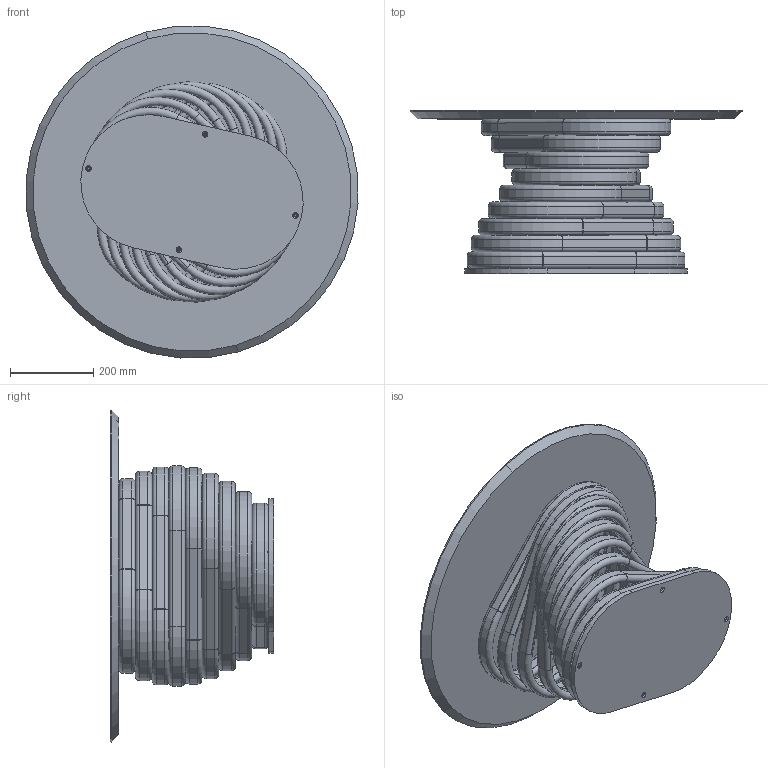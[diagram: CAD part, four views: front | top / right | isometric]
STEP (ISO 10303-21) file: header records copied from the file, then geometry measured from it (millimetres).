
FILE_DESCRIPTION (( 'STEP AP203' ), '1' );
FILE_NAME ('RL12W.STEP', '2024-08-06T12:35:21', ( '' ), ( '' ), 'SwSTEP 2.0', 'SolidWorks 2022', '' );
FILE_SCHEMA (( 'CONFIG_CONTROL_DESIGN' ));
Length unit declared in the file: millimetre
Products named in the file (7): RLBP000000INT-00-ANELLO INTERMEDIO._Default<A macchina>; RLB1000000-00-ROTOLO LOW 9 ANELLI; RLBP000000INF-00-ANELLO INFERIORE FILETTATO_Default<A macchina>; RLBP000000-00-ROTOLO LOW PIASTRA; W1XCMXX-00-Piani Rotondi legno_D.800 SP.20cm; RLBP000000SUP-00-ANELLO CON PIASTRA SUPERIORE_Default<A macchina>; RL12W
Assembly tree (12 placements, depth 3):
  RL12W
    RLB1000000-00-ROTOLO LOW 9 ANELLI
      RLBP000000INF-00-ANELLO INFERIORE FILETTATO_Default<A macchina>
      RLBP000000INT-00-ANELLO INTERMEDIO._Default<A macchina>  x7
      RLBP000000SUP-00-ANELLO CON PIASTRA SUPERIORE_Default<A macchina>
    RLBP000000-00-ROTOLO LOW PIASTRA
    W1XCMXX-00-Piani Rotondi legno_D.800 SP.20cm
Bounding box: 798.13 x 392 x 798.13 mm (x, y, z)
Volume: 13930738.1 mm3; surface area: 3738524.4 mm2
Topology: 40 solids, 40 shells, 460 faces, 1122 edges, 736 vertices
Faces by surface type: cylinder 192, plane 170, torus 72, cone 24, bspline 2
Entity records: 7881 total; most frequent: CARTESIAN_POINT 1898, DIRECTION 1120, ORIENTED_EDGE 1004, EDGE_CURVE 502, AXIS2_PLACEMENT_3D 436, VERTEX_POINT 328, EDGE_LOOP 254, LINE 248
